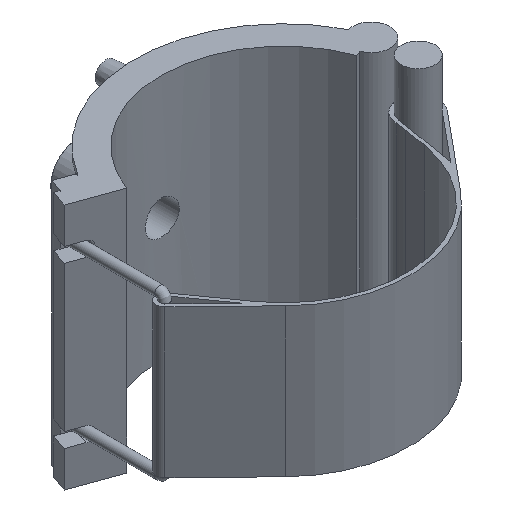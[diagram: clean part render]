
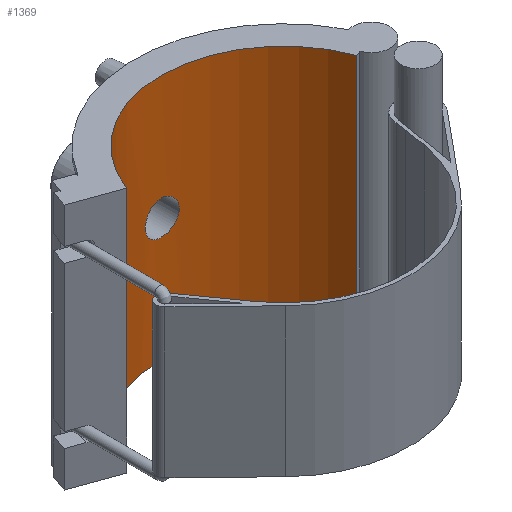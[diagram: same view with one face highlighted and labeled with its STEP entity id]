
A CAD part, isometric view. The second image highlights one B-rep face of the part: STEP entity #1369.
In plain terms, the highlighted cylindrical face has radius 87.25 mm (diameter 174.5 mm), a partial arc.
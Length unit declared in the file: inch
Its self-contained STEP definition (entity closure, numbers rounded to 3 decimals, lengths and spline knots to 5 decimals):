
#27=B_SPLINE_CURVE_WITH_KNOTS('',3,(#2424,#2425,#2426,#2427,#2428,#2429,
#2430,#2431,#2432,#2433,#2434,#2435,#2436,#2437,#2438,#2439,#2440,#2441,
#2442,#2443,#2444,#2445,#2446,#2447,#2448,#2449,#2450,#2451,#2452,#2453,
#2454,#2455,#2456,#2457),.UNSPECIFIED.,.T.,.F.,(4,2,2,2,2,2,2,2,2,2,2,2,
2,2,2,2,4),(0.,0.45705,0.91409,1.37113,1.82817,
2.28521,2.74226,3.1993,3.65635,4.11339,
4.57044,5.02748,5.48452,5.94156,6.3986,
6.85565,7.3127),.UNSPECIFIED.);
#52=CYLINDRICAL_SURFACE('',#1517,3.43504);
#75=FACE_BOUND('',#295,.T.);
#119=CIRCLE('',#1483,3.43504);
#130=CIRCLE('',#1515,3.43504);
#205=FACE_OUTER_BOUND('',#294,.T.);
#294=EDGE_LOOP('',(#1181,#1182,#1183,#1184));
#295=EDGE_LOOP('',(#1185));
#374=LINE('',#2141,#488);
#426=LINE('',#2421,#540);
#488=VECTOR('',#1714,0.3937);
#540=VECTOR('',#1868,0.3937);
#619=VERTEX_POINT('',#2138);
#620=VERTEX_POINT('',#2140);
#641=VERTEX_POINT('',#2210);
#657=VERTEX_POINT('',#2417);
#658=VERTEX_POINT('',#2423);
#764=EDGE_CURVE('',#620,#619,#374,.T.);
#800=EDGE_CURVE('',#620,#641,#119,.T.);
#837=EDGE_CURVE('',#657,#619,#130,.T.);
#838=EDGE_CURVE('',#657,#641,#426,.T.);
#839=EDGE_CURVE('',#658,#658,#27,.T.);
#1181=ORIENTED_EDGE('',*,*,#838,.T.);
#1182=ORIENTED_EDGE('',*,*,#800,.F.);
#1183=ORIENTED_EDGE('',*,*,#764,.T.);
#1184=ORIENTED_EDGE('',*,*,#837,.F.);
#1185=ORIENTED_EDGE('',*,*,#839,.T.);
#1369=ADVANCED_FACE('',(#205,#75),#52,.F.);
#1483=AXIS2_PLACEMENT_3D('',#2211,#1780,#1781);
#1515=AXIS2_PLACEMENT_3D('',#2419,#1864,#1865);
#1517=AXIS2_PLACEMENT_3D('',#2422,#1869,#1870);
#1714=DIRECTION('',(0.,0.,-1.));
#1780=DIRECTION('center_axis',(0.,0.,-1.));
#1781=DIRECTION('ref_axis',(-1.,0.,0.));
#1864=DIRECTION('center_axis',(0.,0.,1.));
#1865=DIRECTION('ref_axis',(-1.,0.,0.));
#1868=DIRECTION('',(0.,0.,1.));
#1869=DIRECTION('center_axis',(0.,0.,1.));
#1870=DIRECTION('ref_axis',(-1.,0.,0.));
#2138=CARTESIAN_POINT('',(-3.22788,1.17485,-3.465));
#2140=CARTESIAN_POINT('',(-3.22788,1.17485,3.465));
#2141=CARTESIAN_POINT('',(-3.22788,1.17485,0.));
#2210=CARTESIAN_POINT('',(3.22788,1.17485,3.465));
#2211=CARTESIAN_POINT('Origin',(0.,0.,3.465));
#2417=CARTESIAN_POINT('',(3.22788,1.17485,-3.465));
#2419=CARTESIAN_POINT('Origin',(0.,0.,-3.465));
#2421=CARTESIAN_POINT('',(3.22788,1.17485,0.));
#2422=CARTESIAN_POINT('Origin',(0.,0.,0.));
#2423=CARTESIAN_POINT('',(0.47702,3.40176,0.));
#2424=CARTESIAN_POINT('Ctrl Pts',(0.47702,3.40176,0.));
#2425=CARTESIAN_POINT('Ctrl Pts',(0.47702,3.40176,-0.05998));
#2426=CARTESIAN_POINT('Ctrl Pts',(0.46502,3.40351,-0.1239));
#2427=CARTESIAN_POINT('Ctrl Pts',(0.41631,3.40981,-0.24141));
#2428=CARTESIAN_POINT('Ctrl Pts',(0.37962,3.41426,-0.295));
#2429=CARTESIAN_POINT('Ctrl Pts',(0.295,3.42261,-0.37962));
#2430=CARTESIAN_POINT('Ctrl Pts',(0.24141,3.42705,-0.41631));
#2431=CARTESIAN_POINT('Ctrl Pts',(0.1239,3.43331,-0.46502));
#2432=CARTESIAN_POINT('Ctrl Pts',(0.05998,3.43504,-0.47702));
#2433=CARTESIAN_POINT('Ctrl Pts',(-0.05998,3.43504,
-0.47702));
#2434=CARTESIAN_POINT('Ctrl Pts',(-0.1239,3.43331,-0.46502));
#2435=CARTESIAN_POINT('Ctrl Pts',(-0.24141,3.42705,-0.41631));
#2436=CARTESIAN_POINT('Ctrl Pts',(-0.295,3.42261,-0.37962));
#2437=CARTESIAN_POINT('Ctrl Pts',(-0.37962,3.41426,-0.295));
#2438=CARTESIAN_POINT('Ctrl Pts',(-0.41631,3.40981,-0.24141));
#2439=CARTESIAN_POINT('Ctrl Pts',(-0.46502,3.40351,-0.1239));
#2440=CARTESIAN_POINT('Ctrl Pts',(-0.47702,3.40176,-0.05998));
#2441=CARTESIAN_POINT('Ctrl Pts',(-0.47702,3.40176,0.05998));
#2442=CARTESIAN_POINT('Ctrl Pts',(-0.46502,3.40351,0.1239));
#2443=CARTESIAN_POINT('Ctrl Pts',(-0.41631,3.40981,0.24141));
#2444=CARTESIAN_POINT('Ctrl Pts',(-0.37962,3.41426,0.295));
#2445=CARTESIAN_POINT('Ctrl Pts',(-0.295,3.42261,0.37962));
#2446=CARTESIAN_POINT('Ctrl Pts',(-0.24141,3.42705,0.41631));
#2447=CARTESIAN_POINT('Ctrl Pts',(-0.1239,3.43331,0.46502));
#2448=CARTESIAN_POINT('Ctrl Pts',(-0.05998,3.43504,
0.47702));
#2449=CARTESIAN_POINT('Ctrl Pts',(0.05998,3.43504,0.47702));
#2450=CARTESIAN_POINT('Ctrl Pts',(0.1239,3.43331,0.46502));
#2451=CARTESIAN_POINT('Ctrl Pts',(0.24141,3.42705,0.41631));
#2452=CARTESIAN_POINT('Ctrl Pts',(0.295,3.42261,0.37962));
#2453=CARTESIAN_POINT('Ctrl Pts',(0.37962,3.41426,0.295));
#2454=CARTESIAN_POINT('Ctrl Pts',(0.41631,3.40981,0.24141));
#2455=CARTESIAN_POINT('Ctrl Pts',(0.46502,3.40351,0.1239));
#2456=CARTESIAN_POINT('Ctrl Pts',(0.47702,3.40176,0.05998));
#2457=CARTESIAN_POINT('Ctrl Pts',(0.47702,3.40176,0.));
